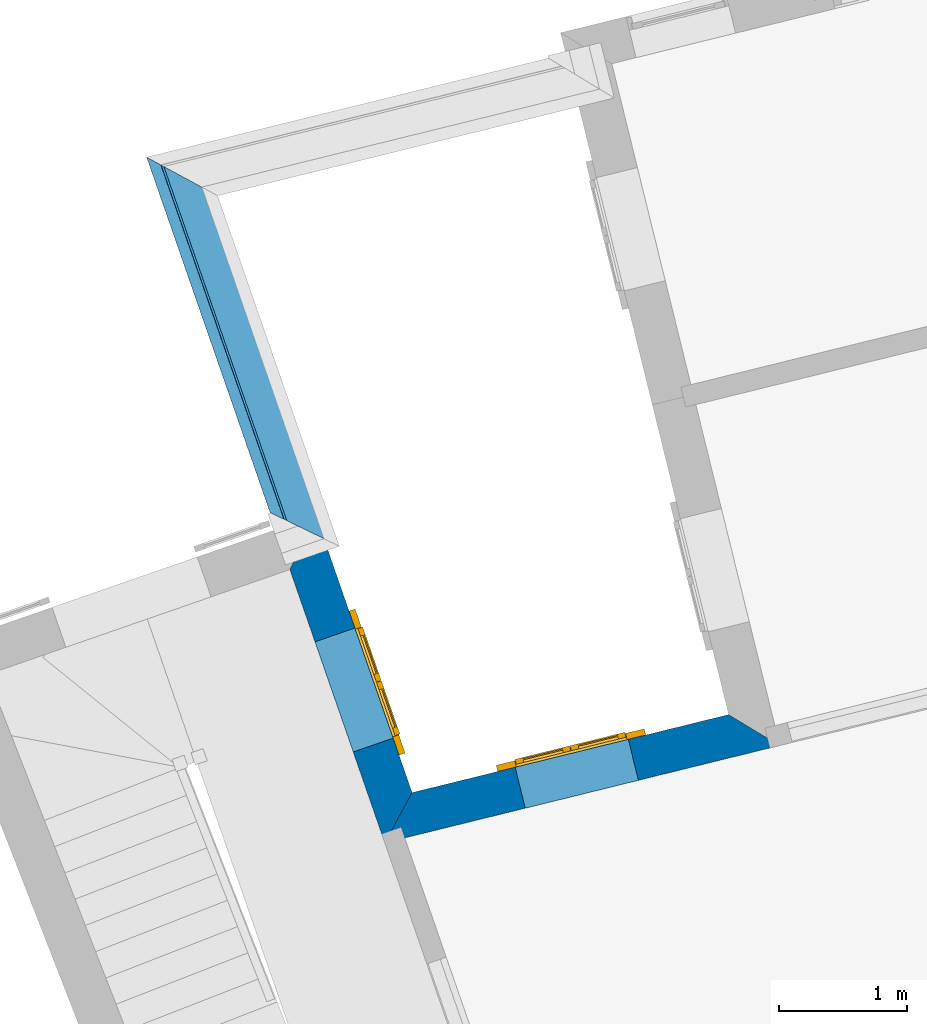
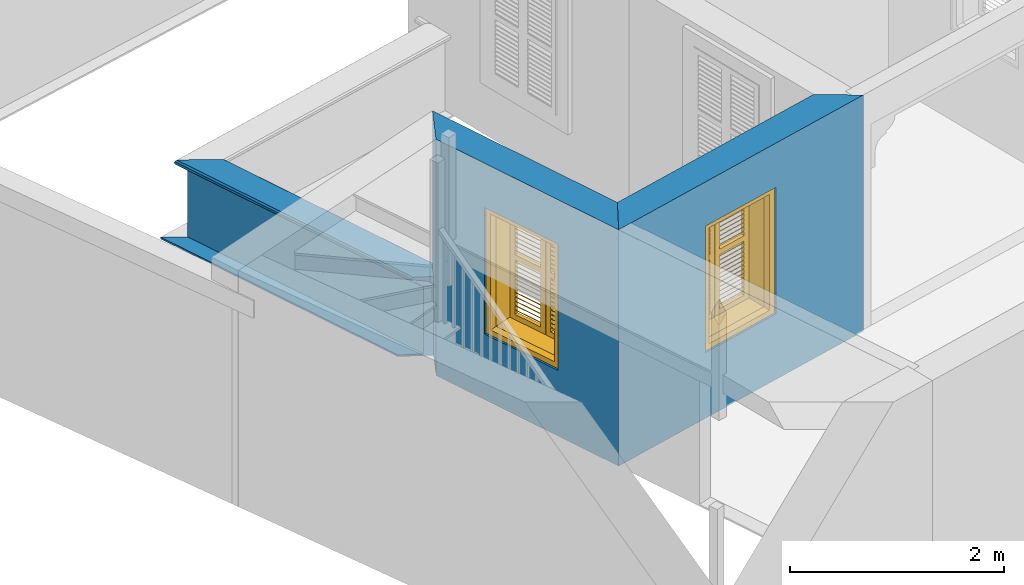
# One storey, part 2 of 8: 4 walls, 2 windows, 2 openings.
"""IFC4 building model written with IfcOpenShell, lengths in metres."""

from ifc_helpers import new_model, si_unit, frame, origin, origin_with_axes, place, context, subcontext, project, spatial, polyline, outline, extrude, clip, halfspace, faceted_brep, source, transform, mapped, material, layer, layer_set, layer_usage, material_profile, profile_set, profile_usage, type_object, type_shapes, element, fill, save


model = new_model("IFC4")

# Units and contexts
model_context = context("Model", 3, world=origin_with_axes())
body_context = subcontext(model_context, "Body", "Model", "MODEL_VIEW")
ifc_project = project(units=[si_unit("PLANEANGLEUNIT", "RADIAN"), si_unit("MASSUNIT", "GRAM", prefix="KILO"), si_unit("FORCEUNIT", "NEWTON", prefix="KILO"), si_unit("LENGTHUNIT", "METRE"), si_unit("AREAUNIT", "SQUARE_METRE"), si_unit("VOLUMEUNIT", "CUBIC_METRE")], contexts=[model_context, model_context])

# Site, building, storey
site_placement = place(None, origin_with_axes())
site = spatial("IfcSite", under=ifc_project, at=site_placement, Name="Site plot-1", CompositionType="ELEMENT")
building_placement = place(None, origin_with_axes())
building = spatial("IfcBuilding", under=site, at=building_placement, Name="Building plot-1", CompositionType="ELEMENT")
storey_placement = place(None, frame((0.0, 0.0, 2.7), z_axis=(0.0, 0.0, 1.0), x_axis=(1.0, 0.0, 0.0)))
storey = spatial("IfcBuildingStorey", under=building, at=storey_placement, Name="plot-1 1", CompositionType="ELEMENT", Elevation=2.7)

# Wall, opening, window
ifc_material = material(Name="Masonry")
ifc_layer = layer(ifc_material, 0.33, ventilated=False)
ifc_layer_set = layer_set([ifc_layer], Name="exterior_0.08_0.25")
ifc_layer_usage = layer_usage(ifc_layer_set, "AXIS2", "POSITIVE", -0.25)
wall_type_1 = type_object("IfcWallType", Name="exterior_0.08_0.25", PredefinedType="SOLIDWALL", material=ifc_layer_set)
wall_1_placement = place(storey_placement, frame((3.15375789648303, 18.5725793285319, 0.0), z_axis=(0.0, 0.0, 1.0), x_axis=(-0.970961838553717, -0.239234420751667, 0.0)))
wall_1 = element("IfcWall", 1, at=wall_1_placement, inside=storey, type_object=wall_type_1, material=ifc_layer_usage, Name="exterior", context=body_context, shape_type="SweptSolid", body=[
    extrude(outline(polyline([(-0.0799999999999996, 0.0799999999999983), (0.249999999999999, -0.250000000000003), (2.79469538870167, -0.250000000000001), (3.09543964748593, 0.0799999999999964), (-0.0799999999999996, 0.0799999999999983)])), origin_with_axes(), (0.0, 0.0, 1.0), 2.7),
])
opening_1_placement = place(wall_1_placement, frame((1.05626597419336, 0.0, 0.75)))
opening_1 = element("IfcOpeningElement", 2, at=opening_1_placement, cuts=wall_1, Name="My Opening", ObjectType="Opening", context=body_context, shape_type="SweptSolid", body=[
    extrude(outline(polyline([(0.0, -0.270000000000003), (0.910000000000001, -0.27), (0.91, 1.1), (4.44089209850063e-16, 1.1), (0.0, -0.270000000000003)])), origin_with_axes(), (0.0, 0.0, 1.0), 1.445),
])
window_type = type_object("IfcWindowType", Name="shuttered_shorter", PartitioningType="DOUBLE_PANEL_HORIZONTAL", PredefinedType="NOTDEFINED")
shared_shape = source(origin(), body_context, "Body", "Brep", [
    faceted_brep([(0.393, 0.0, 0.622), (0.074, 0.0, 0.622), (0.074, 0.0, 0.632), (0.393, 0.0, 0.632), (0.074, -0.04, 0.592), (0.393, -0.04, 0.592), (0.393, -0.04, 0.582), (0.074, -0.04, 0.582), (0.517, 0.0, 0.682), (0.836, 0.0, 0.682), (0.836, 0.0, 0.672), (0.517, 0.0, 0.672), (0.517, -0.04, 0.642), (0.836, -0.04, 0.642), (0.836, -0.04, 0.632), (0.517, -0.04, 0.632), (0.517, 0.0, 0.632), (0.836, 0.0, 0.632), (0.836, 0.0, 0.622), (0.517, 0.0, 0.622), (0.517, -0.04, 0.592), (0.836, -0.04, 0.592), (0.836, -0.04, 0.582), (0.517, -0.04, 0.582), (0.517, 0.0, 0.232), (0.836, 0.0, 0.232), (0.836, 0.0, 0.222), (0.517, 0.0, 0.222), (0.517, -0.04, 0.192), (0.836, -0.04, 0.192), (0.836, -0.04, 0.182), (0.517, -0.04, 0.182), (0.517, 0.0, 0.532), (0.836, 0.0, 0.532), (0.836, 0.0, 0.522), (0.517, 0.0, 0.522), (0.517, -0.04, 0.492), (0.836, -0.04, 0.492), (0.836, -0.04, 0.482), (0.517, -0.04, 0.482), (0.517, 0.0, 0.482), (0.836, 0.0, 0.482), (0.836, 0.0, 0.472), (0.517, 0.0, 0.472), (0.517, -0.04, 0.442), (0.836, -0.04, 0.442), (0.836, -0.04, 0.432), (0.517, -0.04, 0.432), (0.517, 0.0, 0.582), (0.836, 0.0, 0.582), (0.836, 0.0, 0.572), (0.517, 0.0, 0.572), (0.517, -0.04, 0.542), (0.836, -0.04, 0.542), (0.836, -0.04, 0.532), (0.517, -0.04, 0.532), (0.517, 0.0, 0.182), (0.836, 0.0, 0.182), (0.836, 0.0, 0.172), (0.517, 0.0, 0.172), (0.517, -0.04, 0.142), (0.836, -0.04, 0.142), (0.836, -0.04, 0.132), (0.517, -0.04, 0.132), (0.517, 0.0, 0.382), (0.836, 0.0, 0.382), (0.836, 0.0, 0.372), (0.517, 0.0, 0.372), (0.517, -0.04, 0.342), (0.836, -0.04, 0.342), (0.836, -0.04, 0.332), (0.517, -0.04, 0.332), (0.517, 0.0, 0.432), (0.836, 0.0, 0.432), (0.836, 0.0, 0.422), (0.517, 0.0, 0.422), (0.517, -0.04, 0.392), (0.836, -0.04, 0.392), (0.836, -0.04, 0.382), (0.517, -0.04, 0.382), (0.517, 0.0, 0.132), (0.836, 0.0, 0.132), (0.836, 0.0, 0.122), (0.517, 0.0, 0.122), (0.517, -0.04, 0.092), (0.836, -0.04, 0.092), (0.836, -0.04, 0.082), (0.517, -0.04, 0.082), (0.517, 0.0, 0.282), (0.836, 0.0, 0.282), (0.836, 0.0, 0.272), (0.517, 0.0, 0.272), (0.517, -0.04, 0.242), (0.836, -0.04, 0.242), (0.836, -0.04, 0.232), (0.517, -0.04, 0.232), (0.517, 0.0, 0.332), (0.836, 0.0, 0.332), (0.836, 0.0, 0.322), (0.517, 0.0, 0.322), (0.517, -0.04, 0.292), (0.836, -0.04, 0.292), (0.836, -0.04, 0.282), (0.517, -0.04, 0.282), (0.517, 0.0, 1.362667), (0.836, 0.0, 1.362667), (0.836, 0.0, 1.352667), (0.517, 0.0, 1.352667), (0.517, -0.04, 1.322667), (0.836, -0.04, 1.322667), (0.836, -0.04, 1.312667), (0.517, -0.04, 1.312667), (0.517, 0.0, 1.312667), (0.836, 0.0, 1.312667), (0.836, 0.0, 1.302667), (0.517, 0.0, 1.302667), (0.517, -0.04, 1.272667), (0.836, -0.04, 1.272667), (0.836, -0.04, 1.262667), (0.517, -0.04, 1.262667), (0.517, 0.0, 0.912667), (0.836, 0.0, 0.912667), (0.836, 0.0, 0.902667), (0.517, 0.0, 0.902667), (0.517, -0.04, 0.872667), (0.836, -0.04, 0.872667), (0.836, -0.04, 0.862667), (0.517, -0.04, 0.862667), (0.517, 0.0, 1.212667), (0.836, 0.0, 1.212667), (0.836, 0.0, 1.202667), (0.517, 0.0, 1.202667), (0.517, -0.04, 1.172667), (0.836, -0.04, 1.172667), (0.836, -0.04, 1.162667), (0.517, -0.04, 1.162667), (0.517, 0.0, 1.162667), (0.836, 0.0, 1.162667), (0.836, 0.0, 1.152667), (0.517, 0.0, 1.152667), (0.517, -0.04, 1.122667), (0.836, -0.04, 1.122667), (0.836, -0.04, 1.112667), (0.517, -0.04, 1.112667), (0.517, 0.0, 1.262667), (0.836, 0.0, 1.262667), (0.836, 0.0, 1.252667), (0.517, 0.0, 1.252667), (0.517, -0.04, 1.222667), (0.836, -0.04, 1.222667), (0.836, -0.04, 1.212667), (0.517, -0.04, 1.212667), (0.517, 0.0, 0.862667), (0.836, 0.0, 0.862667), (0.836, 0.0, 0.852667), (0.517, 0.0, 0.852667), (0.517, -0.04, 0.822667), (0.836, -0.04, 0.822667), (0.836, -0.04, 0.812667), (0.517, -0.04, 0.812667), (0.517, 0.0, 1.062667), (0.836, 0.0, 1.062667), (0.836, 0.0, 1.052667), (0.517, 0.0, 1.052667), (0.517, -0.04, 1.022667), (0.836, -0.04, 1.022667), (0.836, -0.04, 1.012667), (0.517, -0.04, 1.012667), (0.517, 0.0, 1.112667), (0.836, 0.0, 1.112667), (0.836, 0.0, 1.102667), (0.517, 0.0, 1.102667), (0.517, -0.04, 1.072667), (0.836, -0.04, 1.072667), (0.836, -0.04, 1.062667), (0.517, -0.04, 1.062667), (0.517, 0.0, 0.812667), (0.836, 0.0, 0.812667), (0.836, 0.0, 0.802667), (0.517, 0.0, 0.802667), (0.517, -0.04, 0.772667), (0.836, -0.04, 0.772667), (0.836, -0.04, 0.762667), (0.517, -0.04, 0.762667), (0.517, 0.0, 0.962667), (0.836, 0.0, 0.962667), (0.836, 0.0, 0.952667), (0.517, 0.0, 0.952667), (0.517, -0.04, 0.922667), (0.836, -0.04, 0.922667), (0.836, -0.04, 0.912667), (0.517, -0.04, 0.912667), (0.517, 0.0, 1.012667), (0.836, 0.0, 1.012667), (0.836, 0.0, 1.002667), (0.517, 0.0, 1.002667), (0.517, -0.04, 0.972667), (0.836, -0.04, 0.972667), (0.836, -0.04, 0.962667), (0.517, -0.04, 0.962667), (0.074, 0.0, 0.682), (0.393, 0.0, 0.682), (0.393, 0.0, 0.672), (0.074, 0.0, 0.672), (0.074, -0.04, 0.642), (0.393, -0.04, 0.642), (0.393, -0.04, 0.632), (0.074, -0.04, 0.632), (0.074, 0.0, 0.232), (0.393, 0.0, 0.232), (0.393, 0.0, 0.222), (0.074, 0.0, 0.222), (0.074, -0.04, 0.192), (0.393, -0.04, 0.192), (0.393, -0.04, 0.182), (0.074, -0.04, 0.182), (0.074, 0.0, 0.532), (0.393, 0.0, 0.532), (0.393, 0.0, 0.522), (0.074, 0.0, 0.522), (0.074, -0.04, 0.492), (0.393, -0.04, 0.492), (0.393, -0.04, 0.482), (0.074, -0.04, 0.482), (0.074, 0.0, 0.482), (0.393, 0.0, 0.482), (0.393, 0.0, 0.472), (0.074, 0.0, 0.472), (0.074, -0.04, 0.442), (0.393, -0.04, 0.442), (0.393, -0.04, 0.432), (0.074, -0.04, 0.432), (0.074, 0.0, 0.582), (0.393, 0.0, 0.582), (0.393, 0.0, 0.572), (0.074, 0.0, 0.572), (0.074, -0.04, 0.542), (0.393, -0.04, 0.542), (0.393, -0.04, 0.532), (0.074, -0.04, 0.532), (0.074, 0.0, 0.182), (0.393, 0.0, 0.182), (0.393, 0.0, 0.172), (0.074, 0.0, 0.172), (0.074, -0.04, 0.142), (0.393, -0.04, 0.142), (0.393, -0.04, 0.132), (0.074, -0.04, 0.132), (0.074, 0.0, 0.382), (0.393, 0.0, 0.382), (0.393, 0.0, 0.372), (0.074, 0.0, 0.372), (0.074, -0.04, 0.342), (0.393, -0.04, 0.342), (0.393, -0.04, 0.332), (0.074, -0.04, 0.332), (0.074, 0.0, 0.432), (0.393, 0.0, 0.432), (0.393, 0.0, 0.422), (0.074, 0.0, 0.422), (0.074, -0.04, 0.392), (0.393, -0.04, 0.392), (0.393, -0.04, 0.382), (0.074, -0.04, 0.382), (0.074, 0.0, 0.132), (0.393, 0.0, 0.132), (0.393, 0.0, 0.122), (0.074, 0.0, 0.122), (0.074, -0.04, 0.092), (0.393, -0.04, 0.092), (0.393, -0.04, 0.082), (0.074, -0.04, 0.082), (0.074, 0.0, 0.282), (0.393, 0.0, 0.282), (0.393, 0.0, 0.272), (0.074, 0.0, 0.272), (0.074, -0.04, 0.242), (0.393, -0.04, 0.242), (0.393, -0.04, 0.232), (0.074, -0.04, 0.232), (0.074, 0.0, 0.332), (0.393, 0.0, 0.332), (0.393, 0.0, 0.322), (0.074, 0.0, 0.322), (0.074, -0.04, 0.292), (0.393, -0.04, 0.292), (0.393, -0.04, 0.282), (0.074, -0.04, 0.282), (0.074, 0.0, 1.362667), (0.393, 0.0, 1.362667), (0.393, 0.0, 1.352667), (0.074, 0.0, 1.352667), (0.074, -0.04, 1.322667), (0.393, -0.04, 1.322667), (0.393, -0.04, 1.312667), (0.074, -0.04, 1.312667), (0.074, 0.0, 1.312667), (0.393, 0.0, 1.312667), (0.393, 0.0, 1.302667), (0.074, 0.0, 1.302667), (0.074, -0.04, 1.272667), (0.393, -0.04, 1.272667), (0.393, -0.04, 1.262667), (0.074, -0.04, 1.262667), (0.074, 0.0, 0.912667), (0.393, 0.0, 0.912667), (0.393, 0.0, 0.902667), (0.074, 0.0, 0.902667), (0.074, -0.04, 0.872667), (0.393, -0.04, 0.872667), (0.393, -0.04, 0.862667), (0.074, -0.04, 0.862667), (0.074, 0.0, 1.212667), (0.393, 0.0, 1.212667), (0.393, 0.0, 1.202667), (0.074, 0.0, 1.202667), (0.074, -0.04, 1.172667), (0.393, -0.04, 1.172667), (0.393, -0.04, 1.162667), (0.074, -0.04, 1.162667), (0.074, 0.0, 1.162667), (0.393, 0.0, 1.162667), (0.393, 0.0, 1.152667), (0.074, 0.0, 1.152667), (0.074, -0.04, 1.122667), (0.393, -0.04, 1.122667), (0.393, -0.04, 1.112667), (0.074, -0.04, 1.112667), (0.074, 0.0, 1.262667), (0.393, 0.0, 1.262667), (0.393, 0.0, 1.252667), (0.074, 0.0, 1.252667), (0.074, -0.04, 1.222667), (0.393, -0.04, 1.222667), (0.393, -0.04, 1.212667), (0.074, -0.04, 1.212667), (0.074, 0.0, 0.862667), (0.393, 0.0, 0.862667), (0.393, 0.0, 0.852667), (0.074, 0.0, 0.852667), (0.074, -0.04, 0.822667), (0.393, -0.04, 0.822667), (0.393, -0.04, 0.812667), (0.074, -0.04, 0.812667), (0.074, 0.0, 1.062667), (0.393, 0.0, 1.062667), (0.393, 0.0, 1.052667), (0.074, 0.0, 1.052667), (0.074, -0.04, 1.022667), (0.393, -0.04, 1.022667), (0.393, -0.04, 1.012667), (0.074, -0.04, 1.012667), (0.074, 0.0, 1.112667), (0.393, 0.0, 1.112667), (0.393, 0.0, 1.102667), (0.074, 0.0, 1.102667), (0.074, -0.04, 1.072667), (0.393, -0.04, 1.072667), (0.393, -0.04, 1.062667), (0.074, -0.04, 1.062667), (0.074, 0.0, 0.812667), (0.393, 0.0, 0.812667), (0.393, 0.0, 0.802667), (0.074, 0.0, 0.802667), (0.074, -0.04, 0.772667), (0.393, -0.04, 0.772667), (0.393, -0.04, 0.762667), (0.074, -0.04, 0.762667), (0.074, 0.0, 0.962667), (0.393, 0.0, 0.962667), (0.393, 0.0, 0.952667), (0.074, 0.0, 0.952667), (0.074, -0.04, 0.922667), (0.393, -0.04, 0.922667), (0.393, -0.04, 0.912667), (0.074, -0.04, 0.912667), (0.074, 0.0, 1.012667), (0.393, 0.0, 1.012667), (0.393, 0.0, 1.002667), (0.074, 0.0, 1.002667), (0.074, -0.04, 0.972667), (0.393, -0.04, 0.972667), (0.393, -0.04, 0.962667), (0.074, -0.04, 0.962667), (0.517, -0.04, 0.072), (0.457, -0.04, 0.012), (0.896, -0.04, 0.012), (0.836, -0.04, 0.072), (0.457, -0.04, 0.692667), (0.517, -0.04, 0.692667), (0.457, 0.0, 0.012), (0.896, 0.0, 0.012), (0.836, -0.04, 0.692667), (0.896, -0.04, 0.692667), (0.836, 0.0, 0.072), (0.517, 0.0, 0.072), (0.457, 0.0, 0.692667), (0.517, 0.0, 0.692667), (0.517, -0.04, 0.752666), (0.457, -0.04, 0.752666), (0.896, 0.0, 0.692667), (0.836, 0.0, 0.692667), (0.836, -0.04, 0.752666), (0.896, -0.04, 0.752666), (0.457, 0.0, 0.752666), (0.457, -0.04, 1.433333), (0.517, -0.04, 1.373333), (0.896, 0.0, 0.752666), (0.836, -0.04, 1.373333), (0.896, -0.04, 1.433333), (0.457, 0.0, 1.433333), (0.517, 0.0, 0.752666), (0.836, 0.0, 0.752666), (0.517, 0.0, 1.373333), (0.896, 0.0, 1.433333), (0.836, 0.0, 1.373333), (0.074, -0.04, 0.072), (0.014, -0.04, 0.012), (0.453, -0.04, 0.012), (0.393, -0.04, 0.072), (0.014, -0.04, 0.692667), (0.074, -0.04, 0.692667), (0.014, 0.0, 0.012), (0.453, 0.0, 0.012), (0.393, -0.04, 0.692667), (0.453, -0.04, 0.692667), (0.393, 0.0, 0.072), (0.074, 0.0, 0.072), (0.014, 0.0, 0.692667), (0.074, 0.0, 0.692667), (0.074, -0.04, 0.752666), (0.014, -0.04, 0.752666), (0.453, 0.0, 0.692667), (0.393, 0.0, 0.692667), (0.393, -0.04, 0.752666), (0.453, -0.04, 0.752666), (0.014, 0.0, 0.752666), (0.014, -0.04, 1.433333), (0.074, -0.04, 1.373333), (0.453, 0.0, 0.752666), (0.393, -0.04, 1.373333), (0.453, -0.04, 1.433333), (0.014, 0.0, 1.433333), (0.074, 0.0, 0.752666), (0.393, 0.0, 0.752666), (0.074, 0.0, 1.373333), (0.453, 0.0, 1.433333), (0.393, 0.0, 1.373333), (0.0, 0.33, 1.445), (0.91, 0.33, 1.445), (0.85, 0.33, 1.385), (0.06, 0.33, 1.385), (0.91, 0.25, 1.445), (0.0, 0.25, 1.445), (0.91, 0.25, 1.445), (0.85, 0.33, 0.06), (0.91, 0.33, 0.0), (0.85, 0.25, 1.385), (0.06, 0.25, 1.385), (0.0, 0.33, 0.0), (0.06, 0.33, 0.06), (0.0, 0.25, 0.0), (0.91, 0.25, 0.0), (0.85, 0.25, 0.06), (0.06, 0.25, 0.06), (1.05, 0.25, 1.585), (-0.14, 0.25, 1.585), (-0.14, -0.03, 1.585), (1.05, -0.03, 1.585), (0.9, -0.03, 1.435), (0.01, -0.03, 1.435), (0.01, 0.25, 1.435), (0.9, 0.25, 1.435), (0.9, 0.25, 0.01), (0.9, -0.03, 0.01), (1.05, -0.03, -0.14), (1.05, 0.25, -0.14), (0.01, -0.03, 0.01), (0.01, 0.25, 0.01), (-0.14, -0.03, -0.14), (-0.14, 0.25, -0.14)], [[[0, 1, 2, 3]], [[4, 5, 3, 2]], [[5, 6, 0, 3]], [[1, 0, 6, 7]], [[2, 1, 7, 4]], [[5, 4, 7, 6]], [[8, 9, 10, 11]], [[12, 13, 9, 8]], [[13, 14, 10, 9]], [[14, 15, 11, 10]], [[15, 12, 8, 11]], [[13, 12, 15, 14]], [[16, 17, 18, 19]], [[20, 21, 17, 16]], [[21, 22, 18, 17]], [[22, 23, 19, 18]], [[23, 20, 16, 19]], [[21, 20, 23, 22]], [[24, 25, 26, 27]], [[28, 29, 25, 24]], [[29, 30, 26, 25]], [[30, 31, 27, 26]], [[31, 28, 24, 27]], [[29, 28, 31, 30]], [[32, 33, 34, 35]], [[36, 37, 33, 32]], [[37, 38, 34, 33]], [[38, 39, 35, 34]], [[39, 36, 32, 35]], [[37, 36, 39, 38]], [[40, 41, 42, 43]], [[44, 45, 41, 40]], [[45, 46, 42, 41]], [[46, 47, 43, 42]], [[47, 44, 40, 43]], [[45, 44, 47, 46]], [[48, 49, 50, 51]], [[52, 53, 49, 48]], [[53, 54, 50, 49]], [[54, 55, 51, 50]], [[55, 52, 48, 51]], [[53, 52, 55, 54]], [[56, 57, 58, 59]], [[60, 61, 57, 56]], [[61, 62, 58, 57]], [[62, 63, 59, 58]], [[63, 60, 56, 59]], [[61, 60, 63, 62]], [[64, 65, 66, 67]], [[68, 69, 65, 64]], [[69, 70, 66, 65]], [[70, 71, 67, 66]], [[71, 68, 64, 67]], [[69, 68, 71, 70]], [[72, 73, 74, 75]], [[76, 77, 73, 72]], [[77, 78, 74, 73]], [[78, 79, 75, 74]], [[79, 76, 72, 75]], [[77, 76, 79, 78]], [[80, 81, 82, 83]], [[84, 85, 81, 80]], [[85, 86, 82, 81]], [[86, 87, 83, 82]], [[87, 84, 80, 83]], [[85, 84, 87, 86]], [[88, 89, 90, 91]], [[92, 93, 89, 88]], [[93, 94, 90, 89]], [[94, 95, 91, 90]], [[95, 92, 88, 91]], [[93, 92, 95, 94]], [[96, 97, 98, 99]], [[100, 101, 97, 96]], [[101, 102, 98, 97]], [[102, 103, 99, 98]], [[103, 100, 96, 99]], [[101, 100, 103, 102]], [[104, 105, 106, 107]], [[108, 109, 105, 104]], [[109, 110, 106, 105]], [[110, 111, 107, 106]], [[111, 108, 104, 107]], [[109, 108, 111, 110]], [[112, 113, 114, 115]], [[116, 117, 113, 112]], [[117, 118, 114, 113]], [[118, 119, 115, 114]], [[119, 116, 112, 115]], [[117, 116, 119, 118]], [[120, 121, 122, 123]], [[124, 125, 121, 120]], [[125, 126, 122, 121]], [[126, 127, 123, 122]], [[127, 124, 120, 123]], [[125, 124, 127, 126]], [[128, 129, 130, 131]], [[132, 133, 129, 128]], [[133, 134, 130, 129]], [[134, 135, 131, 130]], [[135, 132, 128, 131]], [[133, 132, 135, 134]], [[136, 137, 138, 139]], [[140, 141, 137, 136]], [[141, 142, 138, 137]], [[142, 143, 139, 138]], [[139, 143, 140, 136]], [[141, 140, 143, 142]], [[144, 145, 146, 147]], [[148, 149, 145, 144]], [[149, 150, 146, 145]], [[150, 151, 147, 146]], [[151, 148, 144, 147]], [[149, 148, 151, 150]], [[152, 153, 154, 155]], [[156, 157, 153, 152]], [[157, 158, 154, 153]], [[158, 159, 155, 154]], [[159, 156, 152, 155]], [[157, 156, 159, 158]], [[160, 161, 162, 163]], [[164, 165, 161, 160]], [[165, 166, 162, 161]], [[166, 167, 163, 162]], [[167, 164, 160, 163]], [[165, 164, 167, 166]], [[168, 169, 170, 171]], [[172, 173, 169, 168]], [[173, 174, 170, 169]], [[174, 175, 171, 170]], [[175, 172, 168, 171]], [[173, 172, 175, 174]], [[176, 177, 178, 179]], [[180, 181, 177, 176]], [[181, 182, 178, 177]], [[182, 183, 179, 178]], [[183, 180, 176, 179]], [[181, 180, 183, 182]], [[184, 185, 186, 187]], [[188, 189, 185, 184]], [[189, 190, 186, 185]], [[190, 191, 187, 186]], [[191, 188, 184, 187]], [[189, 188, 191, 190]], [[192, 193, 194, 195]], [[196, 197, 193, 192]], [[197, 198, 194, 193]], [[198, 199, 195, 194]], [[199, 196, 192, 195]], [[197, 196, 199, 198]], [[200, 201, 202, 203]], [[204, 205, 201, 200]], [[205, 206, 202, 201]], [[206, 207, 203, 202]], [[207, 204, 200, 203]], [[205, 204, 207, 206]], [[208, 209, 210, 211]], [[212, 213, 209, 208]], [[213, 214, 210, 209]], [[214, 215, 211, 210]], [[215, 212, 208, 211]], [[213, 212, 215, 214]], [[216, 217, 218, 219]], [[220, 221, 217, 216]], [[221, 222, 218, 217]], [[222, 223, 219, 218]], [[223, 220, 216, 219]], [[221, 220, 223, 222]], [[224, 225, 226, 227]], [[228, 229, 225, 224]], [[229, 230, 226, 225]], [[230, 231, 227, 226]], [[231, 228, 224, 227]], [[229, 228, 231, 230]], [[232, 233, 234, 235]], [[236, 237, 233, 232]], [[237, 238, 234, 233]], [[238, 239, 235, 234]], [[239, 236, 232, 235]], [[237, 236, 239, 238]], [[240, 241, 242, 243]], [[244, 245, 241, 240]], [[245, 246, 242, 241]], [[246, 247, 243, 242]], [[247, 244, 240, 243]], [[245, 244, 247, 246]], [[248, 249, 250, 251]], [[252, 253, 249, 248]], [[253, 254, 250, 249]], [[254, 255, 251, 250]], [[255, 252, 248, 251]], [[253, 252, 255, 254]], [[256, 257, 258, 259]], [[260, 261, 257, 256]], [[261, 262, 258, 257]], [[262, 263, 259, 258]], [[263, 260, 256, 259]], [[261, 260, 263, 262]], [[264, 265, 266, 267]], [[268, 269, 265, 264]], [[269, 270, 266, 265]], [[270, 271, 267, 266]], [[271, 268, 264, 267]], [[269, 268, 271, 270]], [[272, 273, 274, 275]], [[276, 277, 273, 272]], [[277, 278, 274, 273]], [[278, 279, 275, 274]], [[279, 276, 272, 275]], [[277, 276, 279, 278]], [[280, 281, 282, 283]], [[284, 285, 281, 280]], [[285, 286, 282, 281]], [[286, 287, 283, 282]], [[287, 284, 280, 283]], [[285, 284, 287, 286]], [[288, 289, 290, 291]], [[292, 293, 289, 288]], [[293, 294, 290, 289]], [[294, 295, 291, 290]], [[295, 292, 288, 291]], [[293, 292, 295, 294]], [[296, 297, 298, 299]], [[300, 301, 297, 296]], [[301, 302, 298, 297]], [[302, 303, 299, 298]], [[303, 300, 296, 299]], [[301, 300, 303, 302]], [[304, 305, 306, 307]], [[308, 309, 305, 304]], [[309, 310, 306, 305]], [[310, 311, 307, 306]], [[311, 308, 304, 307]], [[309, 308, 311, 310]], [[312, 313, 314, 315]], [[316, 317, 313, 312]], [[317, 318, 314, 313]], [[318, 319, 315, 314]], [[319, 316, 312, 315]], [[317, 316, 319, 318]], [[320, 321, 322, 323]], [[324, 325, 321, 320]], [[325, 326, 322, 321]], [[326, 327, 323, 322]], [[327, 324, 320, 323]], [[325, 324, 327, 326]], [[328, 329, 330, 331]], [[332, 333, 329, 328]], [[333, 334, 330, 329]], [[334, 335, 331, 330]], [[335, 332, 328, 331]], [[333, 332, 335, 334]], [[336, 337, 338, 339]], [[340, 341, 337, 336]], [[341, 342, 338, 337]], [[342, 343, 339, 338]], [[343, 340, 336, 339]], [[341, 340, 343, 342]], [[344, 345, 346, 347]], [[348, 349, 345, 344]], [[349, 350, 346, 345]], [[350, 351, 347, 346]], [[351, 348, 344, 347]], [[349, 348, 351, 350]], [[352, 353, 354, 355]], [[356, 357, 353, 352]], [[357, 358, 354, 353]], [[358, 359, 355, 354]], [[359, 356, 352, 355]], [[357, 356, 359, 358]], [[360, 361, 362, 363]], [[364, 365, 361, 360]], [[365, 366, 362, 361]], [[366, 367, 363, 362]], [[367, 364, 360, 363]], [[365, 364, 367, 366]], [[368, 369, 370, 371]], [[372, 373, 369, 368]], [[373, 374, 370, 369]], [[374, 375, 371, 370]], [[375, 372, 368, 371]], [[373, 372, 375, 374]], [[376, 377, 378, 379]], [[380, 381, 377, 376]], [[381, 382, 378, 377]], [[382, 383, 379, 378]], [[383, 380, 376, 379]], [[381, 380, 383, 382]], [[384, 385, 386, 387]], [[388, 385, 384, 389]], [[390, 391, 386, 385]], [[392, 387, 386, 393]], [[384, 387, 394, 395]], [[390, 385, 388, 396]], [[389, 384, 395, 397]], [[389, 398, 399, 388]], [[390, 395, 394, 391]], [[400, 393, 386, 391]], [[387, 392, 401, 394]], [[402, 392, 393, 403]], [[396, 388, 399, 404]], [[390, 396, 397, 395]], [[392, 389, 397, 401]], [[398, 389, 392, 402]], [[405, 399, 398, 406]], [[394, 401, 400, 391]], [[407, 403, 393, 400]], [[408, 402, 403, 409]], [[404, 399, 405, 410]], [[411, 397, 396, 404]], [[397, 411, 412, 401]], [[398, 402, 412, 411]], [[406, 398, 411, 413]], [[405, 406, 408, 409]], [[401, 412, 407, 400]], [[414, 409, 403, 407]], [[402, 408, 415, 412]], [[405, 409, 414, 410]], [[404, 410, 413, 411]], [[408, 406, 413, 415]], [[412, 415, 414, 407]], [[413, 410, 414, 415]], [[416, 417, 418, 419]], [[420, 417, 416, 421]], [[422, 423, 418, 417]], [[424, 419, 418, 425]], [[416, 419, 426, 427]], [[422, 417, 420, 428]], [[421, 416, 427, 429]], [[421, 430, 431, 420]], [[422, 427, 426, 423]], [[432, 425, 418, 423]], [[419, 424, 433, 426]], [[434, 424, 425, 435]], [[428, 420, 431, 436]], [[422, 428, 429, 427]], [[424, 421, 429, 433]], [[430, 421, 424, 434]], [[437, 431, 430, 438]], [[426, 433, 432, 423]], [[439, 435, 425, 432]], [[440, 434, 435, 441]], [[436, 431, 437, 442]], [[443, 429, 428, 436]], [[429, 443, 444, 433]], [[430, 434, 444, 443]], [[438, 430, 443, 445]], [[437, 438, 440, 441]], [[433, 444, 439, 432]], [[446, 441, 435, 439]], [[434, 440, 447, 444]], [[437, 441, 446, 442]], [[436, 442, 445, 443]], [[440, 438, 445, 447]], [[444, 447, 446, 439]], [[445, 442, 446, 447]], [[448, 449, 450, 451]], [[452, 449, 448]], [[448, 453, 454]], [[448, 454, 452]], [[455, 450, 449, 456]], [[451, 450, 457, 458]], [[459, 448, 451, 460]], [[448, 459, 461, 453]], [[454, 453, 458, 457]], [[462, 452, 454]], [[454, 457, 463]], [[454, 463, 462]], [[456, 449, 452, 462]], [[450, 455, 463, 457]], [[456, 459, 460, 455]], [[460, 451, 458, 464]], [[459, 456, 462, 461]], [[464, 458, 453, 461]], [[461, 462, 463, 464]], [[455, 460, 464, 463]], [[465, 466, 467, 468]], [[469, 470, 471, 472]], [[473, 474, 469, 472]], [[465, 468, 475, 476]], [[470, 477, 478, 471]], [[474, 473, 478, 477]], [[474, 477, 479, 475]], [[470, 467, 479, 477]], [[470, 469, 468, 467]], [[474, 475, 468, 469]], [[471, 478, 480, 466]], [[473, 472, 465, 476]], [[473, 476, 480, 478]], [[466, 465, 472, 471]], [[480, 476, 475, 479]], [[480, 479, 467, 466]]]),
])
type_shapes(window_type, [shared_shape])
window_1_placement = place(storey_placement, frame((2.06357065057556, 18.5820438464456, 0.75), z_axis=(0.0, 0.0, 1.0), x_axis=(-0.883575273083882, -0.21770332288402, 0.0)))
window_1 = element("IfcWindow", 3, at=window_1_placement, inside=storey, type_object=window_type, Name="living outside window", OverallHeight=1.445, OverallWidth=0.91, context=body_context, shape_type="MappedRepresentation", body=[
    mapped(shared_shape, transform((0.0, 0.0, 0.0), scale=1.0)),
])
fill(opening_1, window_1)

wall_2_placement = place(storey_placement, frame((0.218994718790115, 17.8494856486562, 0.0), z_axis=(0.0, 0.0, 1.0), x_axis=(-0.328085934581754, 0.944647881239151, 0.0)))
wall_2 = element("IfcWall", 4, at=wall_2_placement, inside=storey, type_object=wall_type_1, material=ifc_layer_usage, Name="exterior", context=body_context, shape_type="SweptSolid", body=[
    extrude(outline(polyline([(-0.0729076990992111, 0.0799999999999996), (0.227836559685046, -0.249999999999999), (2.51575725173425, -0.25), (2.18575725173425, 0.0799999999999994), (-0.0729076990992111, 0.0799999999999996)])), origin_with_axes(), (0.0, 0.0, 1.0), 2.7),
])
opening_2_placement = place(wall_2_placement, frame((0.677878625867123, 0.0, 0.75)))
opening_2 = element("IfcOpeningElement", 5, at=opening_2_placement, cuts=wall_2, Name="My Opening", ObjectType="Opening", context=body_context, shape_type="SweptSolid", body=[
    extrude(outline(polyline([(0.0, -0.269999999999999), (0.910000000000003, -0.270000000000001), (0.910000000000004, 1.1), (1.11022302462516e-15, 1.1), (0.0, -0.269999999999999)])), origin_with_axes(), (0.0, 0.0, 1.0), 1.445),
])
window_2_placement = place(storey_placement, frame((0.251647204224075, 18.578425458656, 0.75), z_axis=(0.0, 0.0, 1.0), x_axis=(-0.298558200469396, 0.859629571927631, 0.0)))
window_2 = element("IfcWindow", 6, at=window_2_placement, inside=storey, type_object=window_type, Name="circulation outside window", OverallHeight=1.445, OverallWidth=0.91, context=body_context, shape_type="MappedRepresentation", body=[
    mapped(shared_shape, transform((0.0, 0.0, 0.0), scale=1.0)),
])
fill(opening_2, window_2)

# Walls
ifc_material_profile_1 = material_profile(None, outline(polyline([(0.25, 0.0), (0.25, 0.795), (0.09, 0.795), (0.09, 0.02), (-0.08, 0.02), (-0.08, 0.0), (0.25, 0.0)])))
ifc_profile_set_1 = profile_set([ifc_material_profile_1])
ifc_profile_usage_1 = profile_usage(ifc_profile_set_1)
wall_type_2 = type_object("IfcWallType", Name="parapet internal_0", PredefinedType="PARAPET", material=ifc_profile_set_1)
wall_3_placement = place(storey_placement, frame((-1.91534445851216, 23.9948237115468, 0.0), z_axis=(0.328085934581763, -0.944647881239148, 0.0), x_axis=(0.944647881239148, 0.328085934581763, 0.0)))
element("IfcWall", 7, at=wall_3_placement, inside=storey, type_object=wall_type_2, material=ifc_profile_usage_1, Name="parapet internal_0", context=body_context, shape_type="Clipping", body=[
    clip(clip(extrude(outline(polyline([(0.25, 0.0), (0.25, 0.795), (0.09, 0.795), (0.09, 0.02), (-0.08, 0.02), (-0.08, 0.0), (0.25, 0.0)])), origin_with_axes(), (0.0, 0.0, 1.0), 4.92966999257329), halfspace(frame((0.0, 0.0, 3.92966999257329), z_axis=(0.707106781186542, 0.0, -0.707106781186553), x_axis=(0.0, 1.0, 0.0)), True)), halfspace(frame((0.0, 0.0, 1.0), z_axis=(0.739109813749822, 0.0, -0.673584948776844), x_axis=(0.0, 1.0, 0.0)), False)),
])
ifc_material_profile_2 = material_profile(None, outline(polyline([(0.265, 0.795), (0.268, 0.807), (0.274, 0.816), (0.283, 0.822), (0.295, 0.825), (0.295, 0.84), (0.305, 0.84), (0.317, 0.842), (0.326, 0.849), (0.333, 0.858), (0.335, 0.87), (0.333, 0.882), (0.326, 0.891), (0.317, 0.898), (0.305, 0.9), (0.035, 0.9), (0.023, 0.898), (0.014, 0.891), (0.007, 0.882), (0.005, 0.87), (0.007, 0.858), (0.014, 0.849), (0.023, 0.842), (0.035, 0.84), (0.045, 0.84), (0.045, 0.825), (0.057, 0.822), (0.066, 0.816), (0.072, 0.807), (0.075, 0.795), (0.265, 0.795)])))
ifc_profile_set_2 = profile_set([ifc_material_profile_2])
ifc_profile_usage_2 = profile_usage(ifc_profile_set_2)
wall_type_3 = type_object("IfcWallType", Name="parapet internal_1", PredefinedType="PARAPET", material=ifc_profile_set_2)
wall_4_placement = place(storey_placement, frame((-1.91534445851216, 23.9948237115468, 0.0), z_axis=(0.328085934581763, -0.944647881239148, 0.0), x_axis=(0.944647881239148, 0.328085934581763, 0.0)))
element("IfcWall", 8, at=wall_4_placement, inside=storey, type_object=wall_type_3, material=ifc_profile_usage_2, Name="parapet internal_1", context=body_context, shape_type="Clipping", body=[
    clip(clip(extrude(outline(polyline([(0.265, 0.795), (0.268, 0.807), (0.274, 0.816), (0.283, 0.822), (0.295, 0.825), (0.295, 0.84), (0.305, 0.84), (0.317, 0.842), (0.326, 0.849), (0.333, 0.858), (0.335, 0.87), (0.333, 0.882), (0.326, 0.891), (0.317, 0.898), (0.305, 0.9), (0.035, 0.9), (0.023, 0.898), (0.014, 0.891), (0.007, 0.882), (0.005, 0.87), (0.007, 0.858), (0.014, 0.849), (0.023, 0.842), (0.035, 0.84), (0.045, 0.84), (0.045, 0.825), (0.057, 0.822), (0.066, 0.816), (0.072, 0.807), (0.075, 0.795), (0.265, 0.795)])), origin_with_axes(), (0.0, 0.0, 1.0), 4.92966999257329), halfspace(frame((0.0, 0.0, 3.92966999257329), z_axis=(0.707106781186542, 0.0, -0.707106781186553), x_axis=(0.0, 1.0, 0.0)), True)), halfspace(frame((0.0, 0.0, 1.0), z_axis=(0.739109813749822, 0.0, -0.673584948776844), x_axis=(0.0, 1.0, 0.0)), False)),
])

save(model, "model.ifc")
